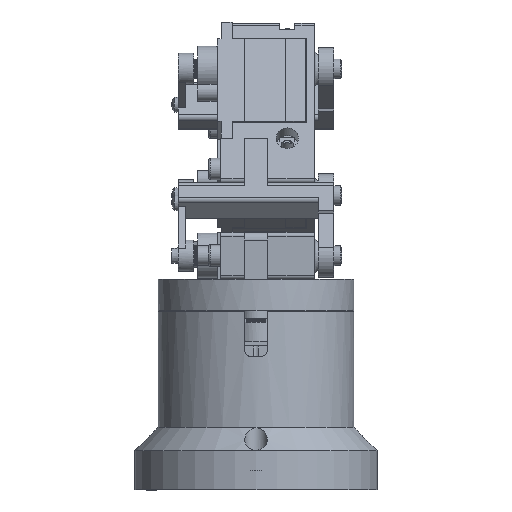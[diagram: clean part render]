
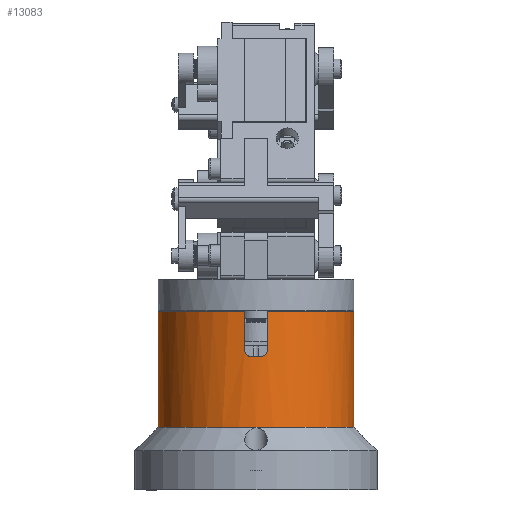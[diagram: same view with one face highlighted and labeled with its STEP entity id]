
A CAD part, left-side view. The second image highlights one B-rep face of the part: STEP entity #13083.
In plain terms, the highlighted cylindrical face has radius 25 mm (diameter 50 mm), a full revolution.
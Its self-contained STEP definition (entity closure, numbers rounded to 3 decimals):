
#243=B_SPLINE_CURVE_WITH_KNOTS('',3,(#19964,#19965,#19966,#19967,#19968,
#19969,#19970,#19971,#19972,#19973),.UNSPECIFIED.,.F.,.F.,(4,2,2,2,4),(-0.302,
-0.226,-0.151,-0.075,0.),
 .UNSPECIFIED.);
#246=B_SPLINE_CURVE_WITH_KNOTS('',3,(#20010,#20011,#20012,#20013,#20014,
#20015,#20016,#20017,#20018,#20019),.UNSPECIFIED.,.F.,.F.,(4,2,2,2,4),(0.,
0.075,0.151,0.226,0.302),
 .UNSPECIFIED.);
#1089=FACE_OUTER_BOUND('',#1820,.T.);
#1820=EDGE_LOOP('',(#9561,#9562,#9563,#9564,#9565,#9566,#9567,#9568,#9569,
#9570,#9571));
#2635=LINE('',#19990,#4043);
#2642=LINE('',#20026,#4050);
#2655=LINE('',#20060,#4063);
#4043=VECTOR('',#15932,10.);
#4050=VECTOR('',#15943,10.);
#4063=VECTOR('',#15968,25.);
#5327=CIRCLE('',#14251,25.);
#5328=CIRCLE('',#14252,25.);
#5335=CIRCLE('',#14270,25.);
#5336=CIRCLE('',#14271,25.);
#5337=CIRCLE('',#14272,25.);
#5882=VERTEX_POINT('',#19894);
#5883=VERTEX_POINT('',#19896);
#5890=VERTEX_POINT('',#19962);
#5891=VERTEX_POINT('',#19963);
#5894=VERTEX_POINT('',#19989);
#5898=VERTEX_POINT('',#20007);
#5899=VERTEX_POINT('',#20009);
#5901=VERTEX_POINT('',#20024);
#5916=VERTEX_POINT('',#20059);
#7270=EDGE_CURVE('',#5882,#5883,#5327,.T.);
#7271=EDGE_CURVE('',#5883,#5882,#5328,.T.);
#7281=EDGE_CURVE('',#5890,#5891,#243,.T.);
#7285=EDGE_CURVE('',#5891,#5894,#2635,.T.);
#7290=EDGE_CURVE('',#5898,#5899,#246,.T.);
#7294=EDGE_CURVE('',#5898,#5901,#2642,.T.);
#7310=EDGE_CURVE('',#5883,#5916,#2655,.T.);
#7311=EDGE_CURVE('',#5894,#5916,#5335,.T.);
#7312=EDGE_CURVE('',#5890,#5899,#5336,.T.);
#7313=EDGE_CURVE('',#5916,#5901,#5337,.T.);
#9561=ORIENTED_EDGE('',*,*,#7270,.F.);
#9562=ORIENTED_EDGE('',*,*,#7271,.F.);
#9563=ORIENTED_EDGE('',*,*,#7310,.T.);
#9564=ORIENTED_EDGE('',*,*,#7311,.F.);
#9565=ORIENTED_EDGE('',*,*,#7285,.F.);
#9566=ORIENTED_EDGE('',*,*,#7281,.F.);
#9567=ORIENTED_EDGE('',*,*,#7312,.T.);
#9568=ORIENTED_EDGE('',*,*,#7290,.F.);
#9569=ORIENTED_EDGE('',*,*,#7294,.T.);
#9570=ORIENTED_EDGE('',*,*,#7313,.F.);
#9571=ORIENTED_EDGE('',*,*,#7310,.F.);
#12797=CYLINDRICAL_SURFACE('',#14269,25.);
#13083=ADVANCED_FACE('',(#1089),#12797,.T.);
#14251=AXIS2_PLACEMENT_3D('',#19897,#15906,#15907);
#14252=AXIS2_PLACEMENT_3D('',#19898,#15908,#15909);
#14269=AXIS2_PLACEMENT_3D('',#20058,#15966,#15967);
#14270=AXIS2_PLACEMENT_3D('',#20061,#15969,#15970);
#14271=AXIS2_PLACEMENT_3D('',#20062,#15971,#15972);
#14272=AXIS2_PLACEMENT_3D('',#20063,#15973,#15974);
#15906=DIRECTION('center_axis',(0.,0.,1.));
#15907=DIRECTION('ref_axis',(-1.,0.,0.));
#15908=DIRECTION('center_axis',(0.,0.,1.));
#15909=DIRECTION('ref_axis',(-1.,0.,0.));
#15932=DIRECTION('',(0.,0.,-1.));
#15943=DIRECTION('',(0.,0.,-1.));
#15966=DIRECTION('center_axis',(0.,0.,1.));
#15967=DIRECTION('ref_axis',(1.,0.,0.));
#15968=DIRECTION('',(0.,0.,-1.));
#15969=DIRECTION('center_axis',(0.,0.,-1.));
#15970=DIRECTION('ref_axis',(0.993,-0.12,0.));
#15971=DIRECTION('center_axis',(0.,0.,1.));
#15972=DIRECTION('ref_axis',(1.,0.,0.));
#15973=DIRECTION('center_axis',(0.,0.,-1.));
#15974=DIRECTION('ref_axis',(0.993,-0.12,0.));
#19894=CARTESIAN_POINT('',(30.65,0.,18.));
#19896=CARTESIAN_POINT('',(-19.35,0.,18.));
#19897=CARTESIAN_POINT('Origin',(5.65,0.,
18.));
#19898=CARTESIAN_POINT('Origin',(5.65,0.,
18.));
#19962=CARTESIAN_POINT('',(30.63,-1.,0.));
#19963=CARTESIAN_POINT('',(30.469,-3.,-2.));
#19964=CARTESIAN_POINT('Ctrl Pts',(30.63,-1.,0.));
#19965=CARTESIAN_POINT('Ctrl Pts',(30.62,-1.252,0.));
#19966=CARTESIAN_POINT('Ctrl Pts',(30.605,-1.52,-0.05));
#19967=CARTESIAN_POINT('Ctrl Pts',(30.57,-2.013,-0.255));
#19968=CARTESIAN_POINT('Ctrl Pts',(30.55,-2.237,-0.409));
#19969=CARTESIAN_POINT('Ctrl Pts',(30.516,-2.592,-0.764));
#19970=CARTESIAN_POINT('Ctrl Pts',(30.499,-2.746,-0.988));
#19971=CARTESIAN_POINT('Ctrl Pts',(30.476,-2.95,-1.481));
#19972=CARTESIAN_POINT('Ctrl Pts',(30.469,-3.,-1.749));
#19973=CARTESIAN_POINT('Ctrl Pts',(30.469,-3.,-2.));
#19989=CARTESIAN_POINT('',(30.469,-3.,-11.5));
#19990=CARTESIAN_POINT('',(30.469,-3.,0.));
#20007=CARTESIAN_POINT('',(30.469,3.,-2.));
#20009=CARTESIAN_POINT('',(30.63,1.,0.));
#20010=CARTESIAN_POINT('Ctrl Pts',(30.469,3.,-2.));
#20011=CARTESIAN_POINT('Ctrl Pts',(30.469,3.,-1.749));
#20012=CARTESIAN_POINT('Ctrl Pts',(30.476,2.95,-1.481));
#20013=CARTESIAN_POINT('Ctrl Pts',(30.499,2.746,-0.988));
#20014=CARTESIAN_POINT('Ctrl Pts',(30.516,2.592,-0.764));
#20015=CARTESIAN_POINT('Ctrl Pts',(30.55,2.237,-0.409));
#20016=CARTESIAN_POINT('Ctrl Pts',(30.57,2.013,-0.255));
#20017=CARTESIAN_POINT('Ctrl Pts',(30.605,1.52,-0.05));
#20018=CARTESIAN_POINT('Ctrl Pts',(30.62,1.252,0.));
#20019=CARTESIAN_POINT('Ctrl Pts',(30.63,1.,0.));
#20024=CARTESIAN_POINT('',(30.469,3.,-11.5));
#20026=CARTESIAN_POINT('',(30.469,3.,0.));
#20058=CARTESIAN_POINT('Origin',(5.65,0.,
0.));
#20059=CARTESIAN_POINT('',(-19.35,0.,-11.5));
#20060=CARTESIAN_POINT('',(-19.35,0.,0.));
#20061=CARTESIAN_POINT('Origin',(5.65,0.,
-11.5));
#20062=CARTESIAN_POINT('Origin',(5.65,0.,
0.));
#20063=CARTESIAN_POINT('Origin',(5.65,0.,
-11.5));
